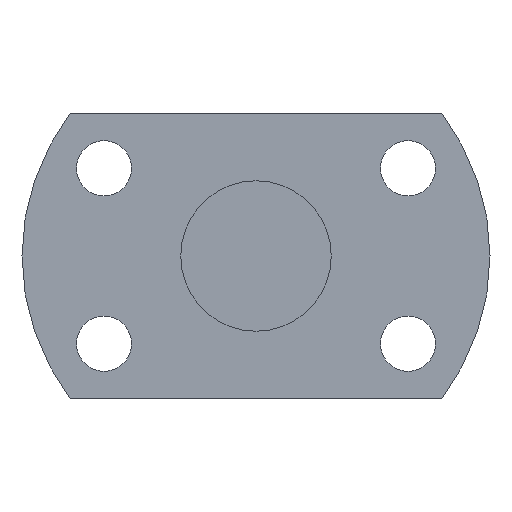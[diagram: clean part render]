
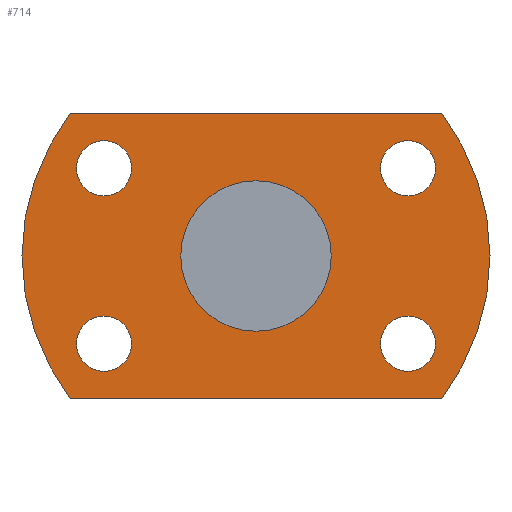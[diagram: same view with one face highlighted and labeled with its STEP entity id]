
A CAD part, left-side view. The second image highlights one B-rep face of the part: STEP entity #714.
In plain terms, the highlighted planar face has unit normal (-1, 0, 0).
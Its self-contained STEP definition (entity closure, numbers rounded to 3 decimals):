
#230=CARTESIAN_POINT('',(130.0,18.187,-7.2));
#231=VERTEX_POINT('',#230);
#232=CARTESIAN_POINT('',(130.0,18.187,-10.5));
#233=DIRECTION('',(1.0,0.0,0.0));
#234=DIRECTION('',(0.0,0.0,1.0));
#235=AXIS2_PLACEMENT_3D('',#232,#233,#234);
#236=CIRCLE('',#235,3.3);
#237=EDGE_CURVE('',#231,#231,#236,.T.);
#279=CARTESIAN_POINT('',(130.0,-18.187,13.8));
#280=VERTEX_POINT('',#279);
#281=CARTESIAN_POINT('',(130.0,-18.187,10.5));
#282=DIRECTION('',(1.0,0.0,0.0));
#283=DIRECTION('',(0.0,0.0,1.0));
#284=AXIS2_PLACEMENT_3D('',#281,#282,#283);
#285=CIRCLE('',#284,3.3);
#286=EDGE_CURVE('',#280,#280,#285,.T.);
#328=CARTESIAN_POINT('',(130.0,-18.187,-7.2));
#329=VERTEX_POINT('',#328);
#330=CARTESIAN_POINT('',(130.0,-18.187,-10.5));
#331=DIRECTION('',(1.0,0.0,0.0));
#332=DIRECTION('',(0.0,0.0,1.0));
#333=AXIS2_PLACEMENT_3D('',#330,#331,#332);
#334=CIRCLE('',#333,3.3);
#335=EDGE_CURVE('',#329,#329,#334,.T.);
#377=CARTESIAN_POINT('',(130.0,18.187,13.8));
#378=VERTEX_POINT('',#377);
#379=CARTESIAN_POINT('',(130.0,18.187,10.5));
#380=DIRECTION('',(1.0,0.0,0.0));
#381=DIRECTION('',(0.0,0.0,1.0));
#382=AXIS2_PLACEMENT_3D('',#379,#380,#381);
#383=CIRCLE('',#382,3.3);
#384=EDGE_CURVE('',#378,#378,#383,.T.);
#548=CARTESIAN_POINT('',(130.0,-22.249,-17.0));
#549=VERTEX_POINT('',#548);
#556=CARTESIAN_POINT('',(130.0,22.249,-17.0));
#557=VERTEX_POINT('',#556);
#558=CARTESIAN_POINT('',(130.0,22.249,-17.0));
#559=DIRECTION('',(0.0,-1.0,0.0));
#560=VECTOR('',#559,44.497);
#561=LINE('',#558,#560);
#562=EDGE_CURVE('',#557,#549,#561,.T.);
#579=CARTESIAN_POINT('',(130.0,-22.249,17.0));
#580=VERTEX_POINT('',#579);
#587=CARTESIAN_POINT('',(130.0,0.0,0.0));
#588=DIRECTION('',(-1.0,0.0,0.0));
#589=DIRECTION('',(0.0,0.0,1.0));
#590=AXIS2_PLACEMENT_3D('',#587,#588,#589);
#591=CIRCLE('',#590,28.);
#592=EDGE_CURVE('',#549,#580,#591,.T.);
#604=CARTESIAN_POINT('',(130.0,22.249,17.0));
#605=VERTEX_POINT('',#604);
#612=CARTESIAN_POINT('',(130.0,-22.249,17.0));
#613=DIRECTION('',(0.0,1.0,0.0));
#614=VECTOR('',#613,44.497);
#615=LINE('',#612,#614);
#616=EDGE_CURVE('',#580,#605,#615,.T.);
#629=CARTESIAN_POINT('',(130.0,0.0,0.0));
#630=DIRECTION('',(-1.0,0.0,0.0));
#631=DIRECTION('',(0.0,0.0,1.0));
#632=AXIS2_PLACEMENT_3D('',#629,#630,#631);
#633=CIRCLE('',#632,28.);
#634=EDGE_CURVE('',#605,#557,#633,.T.);
#680=CARTESIAN_POINT('',(130.0,0.0,12.5));
#681=DIRECTION('',(-1.0,0.0,0.0));
#682=DIRECTION('',(0.0,0.0,1.0));
#683=AXIS2_PLACEMENT_3D('',#680,#681,#682);
#684=PLANE('',#683);
#685=ORIENTED_EDGE('',*,*,#634,.T.);
#686=ORIENTED_EDGE('',*,*,#562,.T.);
#687=ORIENTED_EDGE('',*,*,#592,.T.);
#688=ORIENTED_EDGE('',*,*,#616,.T.);
#689=EDGE_LOOP('',(#685,#686,#687,#688));
#690=FACE_OUTER_BOUND('',#689,.T.);
#691=ORIENTED_EDGE('',*,*,#237,.T.);
#692=EDGE_LOOP('',(#691));
#693=FACE_BOUND('',#692,.T.);
#694=ORIENTED_EDGE('',*,*,#286,.T.);
#695=EDGE_LOOP('',(#694));
#696=FACE_BOUND('',#695,.T.);
#697=ORIENTED_EDGE('',*,*,#335,.T.);
#698=EDGE_LOOP('',(#697));
#699=FACE_BOUND('',#698,.T.);
#700=ORIENTED_EDGE('',*,*,#384,.T.);
#701=EDGE_LOOP('',(#700));
#702=FACE_BOUND('',#701,.T.);
#703=CARTESIAN_POINT('',(130.0,0.0,9.));
#704=VERTEX_POINT('',#703);
#705=CARTESIAN_POINT('',(130.0,0.0,0.0));
#706=DIRECTION('',(-1.0,0.0,0.0));
#707=DIRECTION('',(0.0,0.0,1.0));
#708=AXIS2_PLACEMENT_3D('',#705,#706,#707);
#709=CIRCLE('',#708,9.);
#710=EDGE_CURVE('',#704,#704,#709,.T.);
#711=ORIENTED_EDGE('',*,*,#710,.F.);
#712=EDGE_LOOP('',(#711));
#713=FACE_BOUND('',#712,.T.);
#714=ADVANCED_FACE('',(#690,#693,#696,#699,#702,#713),#684,.T.);
